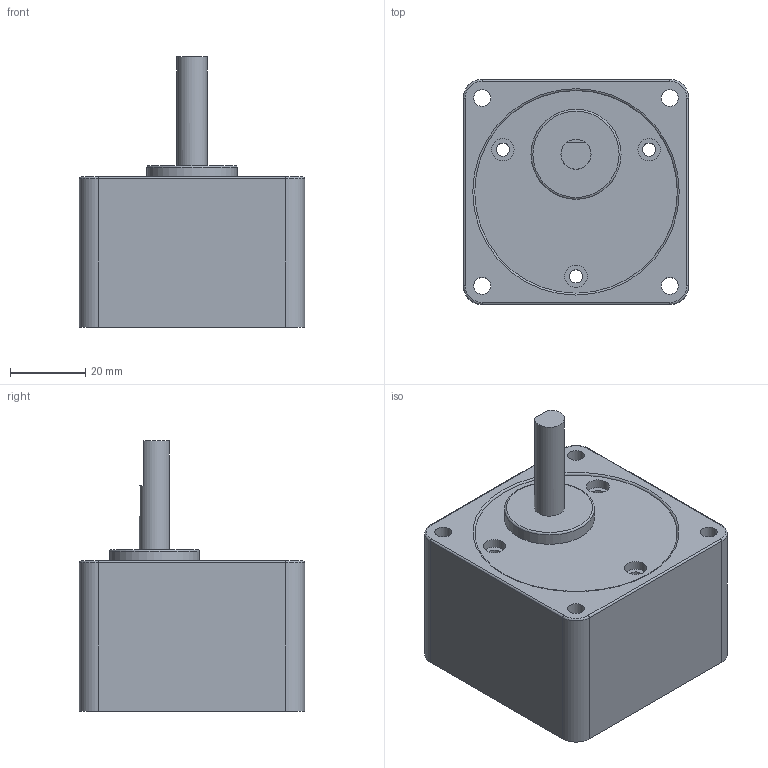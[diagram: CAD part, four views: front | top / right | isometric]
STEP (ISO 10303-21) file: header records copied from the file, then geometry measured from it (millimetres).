
FILE_DESCRIPTION((''),'2;1');
FILE_NAME('E:\2공장-도면\3D\표준형 3D(민규)\step file\K6G(20~250)B(C).stp','2014-11-05T09:48:28',('AHN'),(''),'Autodesk Inventor 2012','Autodesk Inventor 2012','');
FILE_SCHEMA(('CONFIG_CONTROL_DESIGN'));
Length unit declared in the file: millimetre
Products named in the file (1): K6G(20~250)B(C)
Bounding box: 60 x 60 x 72 mm (x, y, z)
Volume: 129837 mm3; surface area: 21505.2 mm2
Topology: 1 solids, 1 shells, 42 faces, 93 edges, 60 vertices
Faces by surface type: cylinder 21, plane 15, torus 6
Full cylindrical faces by diameter (mm): 3.5 x3, 4.5 x4, 6 x3, 8 x1, 24 x1, 54 x1
Entity records: 1122 total; most frequent: DIRECTION 210, CARTESIAN_POINT 173, ORIENTED_EDGE 148, AXIS2_PLACEMENT_3D 93, EDGE_LOOP 78, EDGE_CURVE 74, VERTEX_POINT 56, CIRCLE 50
